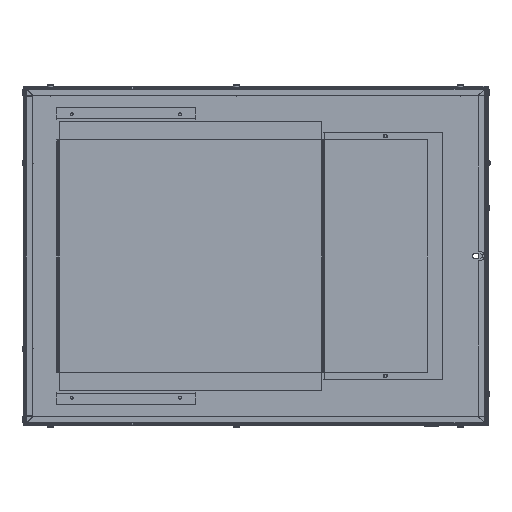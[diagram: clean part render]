
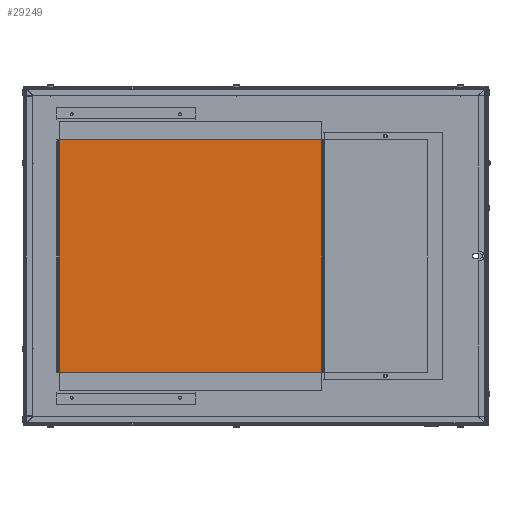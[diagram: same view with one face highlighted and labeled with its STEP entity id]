
A CAD part, front view. The second image highlights one B-rep face of the part: STEP entity #29249.
In plain terms, the highlighted planar face has unit normal (0, 1, 0).
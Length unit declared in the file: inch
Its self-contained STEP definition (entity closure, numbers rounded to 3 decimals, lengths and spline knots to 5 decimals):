
#95 = ORIENTED_EDGE ( 'NONE', *, *, #19166, .T. ) ;
#1187 = ORIENTED_EDGE ( 'NONE', *, *, #6015, .T. ) ;
#1306 = ORIENTED_EDGE ( 'NONE', *, *, #15755, .T. ) ;
#1418 = EDGE_CURVE ( 'NONE', #30918, #37647, #29763, .T. ) ;
#1696 = CARTESIAN_POINT ( 'NONE',  ( 7.5, -0.038, -8.47763 ) ) ;
#2153 = DIRECTION ( 'NONE',  ( 1., 0., 0. ) ) ;
#2192 = CARTESIAN_POINT ( 'NONE',  ( 8.71875, -0.038, -8.47763 ) ) ;
#2910 = VECTOR ( 'NONE', #15535, 39.37008 ) ;
#3725 = DIRECTION ( 'NONE',  ( -1., 0., 0. ) ) ;
#5191 = VERTEX_POINT ( 'NONE', #23597 ) ;
#6015 = EDGE_CURVE ( 'NONE', #34197, #37647, #28451, .T. ) ;
#6026 = CARTESIAN_POINT ( 'NONE',  ( -7.5, -0.038, 8.47763 ) ) ;
#6074 = PLANE ( 'NONE',  #23451 ) ;
#7540 = CARTESIAN_POINT ( 'NONE',  ( -7.5, -0.038, -8.47763 ) ) ;
#7809 = CARTESIAN_POINT ( 'NONE',  ( 7.5, -0.038, -8.47763 ) ) ;
#8089 = VECTOR ( 'NONE', #30672, 39.37008 ) ;
#9235 = ORIENTED_EDGE ( 'NONE', *, *, #1418, .F. ) ;
#9706 = ORIENTED_EDGE ( 'NONE', *, *, #35758, .T. ) ;
#11199 = LINE ( 'NONE', #43316, #42378 ) ;
#11288 = VECTOR ( 'NONE', #38633, 39.37008 ) ;
#13805 = VECTOR ( 'NONE', #3725, 39.37008 ) ;
#14302 = ORIENTED_EDGE ( 'NONE', *, *, #51828, .T. ) ;
#15474 = VECTOR ( 'NONE', #48038, 39.37008 ) ;
#15535 = DIRECTION ( 'NONE',  ( 0., 0., -1. ) ) ;
#15606 = EDGE_LOOP ( 'NONE', ( #1306, #1187, #9235, #14302, #47480, #95, #26739, #9706 ) ) ;
#15755 = EDGE_CURVE ( 'NONE', #5191, #34197, #44949, .T. ) ;
#15864 = VECTOR ( 'NONE', #38596, 39.37008 ) ;
#18119 = CARTESIAN_POINT ( 'NONE',  ( -8.71875, -0.038, -8.47763 ) ) ;
#19166 = EDGE_CURVE ( 'NONE', #21118, #44857, #43749, .T. ) ;
#19509 = CARTESIAN_POINT ( 'NONE',  ( -8.71875, -0.038, 8.5625 ) ) ;
#21118 = VERTEX_POINT ( 'NONE', #39745 ) ;
#23451 = AXIS2_PLACEMENT_3D ( 'NONE', #50992, #26568, #2153 ) ;
#23597 = CARTESIAN_POINT ( 'NONE',  ( 8.71875, -0.038, 8.47763 ) ) ;
#24106 = DIRECTION ( 'NONE',  ( -1., 0., 0. ) ) ;
#24209 = CARTESIAN_POINT ( 'NONE',  ( 8.71875, -0.038, -8.47763 ) ) ;
#26308 = CARTESIAN_POINT ( 'NONE',  ( 8.71875, -0.038, 8.47763 ) ) ;
#26568 = DIRECTION ( 'NONE',  ( 0., -1., 0. ) ) ;
#26739 = ORIENTED_EDGE ( 'NONE', *, *, #32886, .F. ) ;
#27993 = LINE ( 'NONE', #26308, #15864 ) ;
#28451 = LINE ( 'NONE', #7809, #13805 ) ;
#29249 = ADVANCED_FACE ( 'NONE', ( #50266 ), #6074, .F. ) ;
#29763 = LINE ( 'NONE', #2192, #8089 ) ;
#30672 = DIRECTION ( 'NONE',  ( 1., 0., 0. ) ) ;
#30918 = VERTEX_POINT ( 'NONE', #34420 ) ;
#32886 = EDGE_CURVE ( 'NONE', #33644, #44857, #27993, .T. ) ;
#33284 = VECTOR ( 'NONE', #24106, 39.37008 ) ;
#33644 = VERTEX_POINT ( 'NONE', #47763 ) ;
#34197 = VERTEX_POINT ( 'NONE', #24209 ) ;
#34420 = CARTESIAN_POINT ( 'NONE',  ( -7.5, -0.038, -8.47763 ) ) ;
#35259 = CARTESIAN_POINT ( 'NONE',  ( -7.5, -0.038, 8.47763 ) ) ;
#35758 = EDGE_CURVE ( 'NONE', #33644, #5191, #11199, .T. ) ;
#36244 = VERTEX_POINT ( 'NONE', #18119 ) ;
#36488 = EDGE_CURVE ( 'NONE', #36244, #21118, #46710, .T. ) ;
#37647 = VERTEX_POINT ( 'NONE', #1696 ) ;
#38596 = DIRECTION ( 'NONE',  ( -1., 0., 0. ) ) ;
#38633 = DIRECTION ( 'NONE',  ( 1., 0., 0. ) ) ;
#39745 = CARTESIAN_POINT ( 'NONE',  ( -8.71875, -0.038, 8.47763 ) ) ;
#42378 = VECTOR ( 'NONE', #47404, 39.37008 ) ;
#43316 = CARTESIAN_POINT ( 'NONE',  ( 7.5, -0.038, 8.47763 ) ) ;
#43749 = LINE ( 'NONE', #6026, #11288 ) ;
#44065 = CARTESIAN_POINT ( 'NONE',  ( 8.71875, -0.038, 8.5625 ) ) ;
#44089 = LINE ( 'NONE', #7540, #33284 ) ;
#44857 = VERTEX_POINT ( 'NONE', #35259 ) ;
#44949 = LINE ( 'NONE', #44065, #2910 ) ;
#46710 = LINE ( 'NONE', #19509, #15474 ) ;
#47404 = DIRECTION ( 'NONE',  ( 1., 0., 0. ) ) ;
#47480 = ORIENTED_EDGE ( 'NONE', *, *, #36488, .T. ) ;
#47763 = CARTESIAN_POINT ( 'NONE',  ( 7.5, -0.038, 8.47763 ) ) ;
#48038 = DIRECTION ( 'NONE',  ( 0., 0., 1. ) ) ;
#50266 = FACE_OUTER_BOUND ( 'NONE', #15606, .T. ) ;
#50992 = CARTESIAN_POINT ( 'NONE',  ( 8.71875, -0.038, -8.5625 ) ) ;
#51828 = EDGE_CURVE ( 'NONE', #30918, #36244, #44089, .T. ) ;
